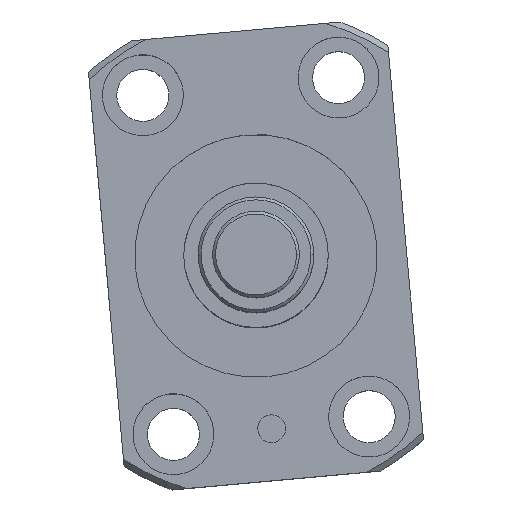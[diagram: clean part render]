
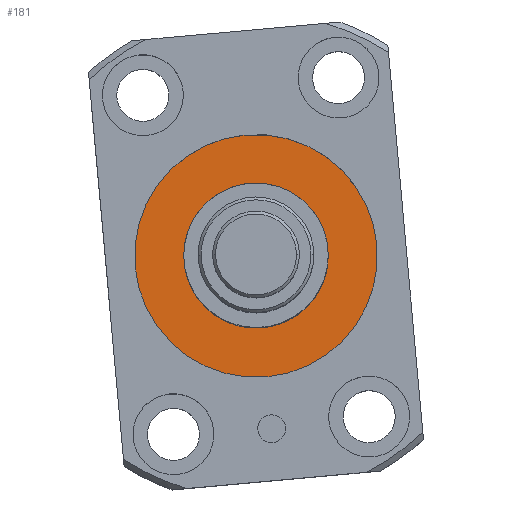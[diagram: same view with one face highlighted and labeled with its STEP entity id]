
A CAD part, top view. The second image highlights one B-rep face of the part: STEP entity #181.
In plain terms, the highlighted planar face has unit normal (0, 0, 1).
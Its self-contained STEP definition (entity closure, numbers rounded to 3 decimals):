
#59 = AXIS2_PLACEMENT_3D ( 'NONE', #1407, #3321, #1691 ) ;
#181 = ADVANCED_FACE ( 'NONE', ( #186, #2327 ), #3003, .T. ) ;
#186 = FACE_OUTER_BOUND ( 'NONE', #1249, .T. ) ;
#236 = CARTESIAN_POINT ( 'NONE',  ( 0., 0., -4.85 ) ) ;
#261 = CARTESIAN_POINT ( 'NONE',  ( 0., 0., -4.85 ) ) ;
#466 = CARTESIAN_POINT ( 'NONE',  ( 12.5, 0., -4.85 ) ) ;
#541 = DIRECTION ( 'NONE',  ( 1., 0., 0. ) ) ;
#547 = ORIENTED_EDGE ( 'NONE', *, *, #558, .T. ) ;
#558 = EDGE_CURVE ( 'NONE', #617, #1659, #3081, .T. ) ;
#617 = VERTEX_POINT ( 'NONE', #2318 ) ;
#900 = DIRECTION ( 'NONE',  ( 0., 0., 1. ) ) ;
#973 = DIRECTION ( 'NONE',  ( 0., 0., -1. ) ) ;
#1034 = AXIS2_PLACEMENT_3D ( 'NONE', #261, #2218, #541 ) ;
#1084 = CARTESIAN_POINT ( 'NONE',  ( -12.5, 0., -4.85 ) ) ;
#1089 = EDGE_CURVE ( 'NONE', #2963, #1774, #2586, .T. ) ;
#1249 = EDGE_LOOP ( 'NONE', ( #2427, #547 ) ) ;
#1267 = CARTESIAN_POINT ( 'NONE',  ( 21., 0., -4.85 ) ) ;
#1278 = ORIENTED_EDGE ( 'NONE', *, *, #1089, .T. ) ;
#1368 = DIRECTION ( 'NONE',  ( 0., 0., 1. ) ) ;
#1407 = CARTESIAN_POINT ( 'NONE',  ( 0., 0., -4.85 ) ) ;
#1459 = AXIS2_PLACEMENT_3D ( 'NONE', #236, #1368, #3279 ) ;
#1522 = EDGE_CURVE ( 'NONE', #1659, #617, #2655, .T. ) ;
#1578 = CIRCLE ( 'NONE', #3574, 12.5 ) ;
#1659 = VERTEX_POINT ( 'NONE', #1267 ) ;
#1691 = DIRECTION ( 'NONE',  ( 1., 0., 0. ) ) ;
#1774 = VERTEX_POINT ( 'NONE', #466 ) ;
#2218 = DIRECTION ( 'NONE',  ( 0., 0., 1. ) ) ;
#2297 = EDGE_LOOP ( 'NONE', ( #1278, #2431 ) ) ;
#2318 = CARTESIAN_POINT ( 'NONE',  ( -21., 0., -4.85 ) ) ;
#2327 = FACE_BOUND ( 'NONE', #2297, .T. ) ;
#2427 = ORIENTED_EDGE ( 'NONE', *, *, #1522, .T. ) ;
#2431 = ORIENTED_EDGE ( 'NONE', *, *, #3167, .T. ) ;
#2580 = CARTESIAN_POINT ( 'NONE',  ( 0., 0., -4.85 ) ) ;
#2586 = CIRCLE ( 'NONE', #59, 12.5 ) ;
#2641 = CARTESIAN_POINT ( 'NONE',  ( 0., 0., -4.85 ) ) ;
#2655 = CIRCLE ( 'NONE', #1034, 21. ) ;
#2836 = DIRECTION ( 'NONE',  ( 1., 0., 0. ) ) ;
#2853 = AXIS2_PLACEMENT_3D ( 'NONE', #2580, #900, #2836 ) ;
#2901 = DIRECTION ( 'NONE',  ( 1., 0., 0. ) ) ;
#2963 = VERTEX_POINT ( 'NONE', #1084 ) ;
#3003 = PLANE ( 'NONE',  #1459 ) ;
#3081 = CIRCLE ( 'NONE', #2853, 21. ) ;
#3167 = EDGE_CURVE ( 'NONE', #1774, #2963, #1578, .T. ) ;
#3279 = DIRECTION ( 'NONE',  ( 1., 0., 0. ) ) ;
#3321 = DIRECTION ( 'NONE',  ( 0., 0., -1. ) ) ;
#3574 = AXIS2_PLACEMENT_3D ( 'NONE', #2641, #973, #2901 ) ;
